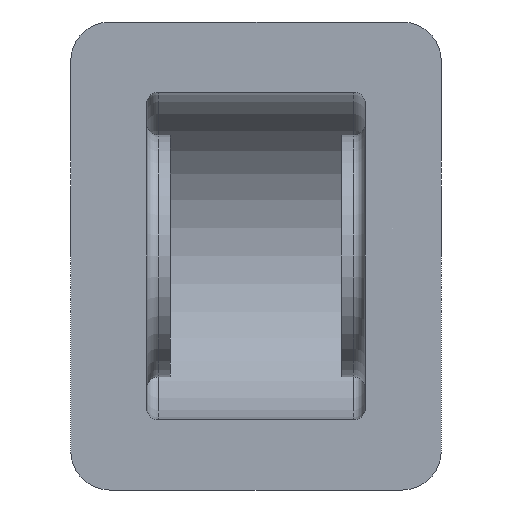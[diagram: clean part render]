
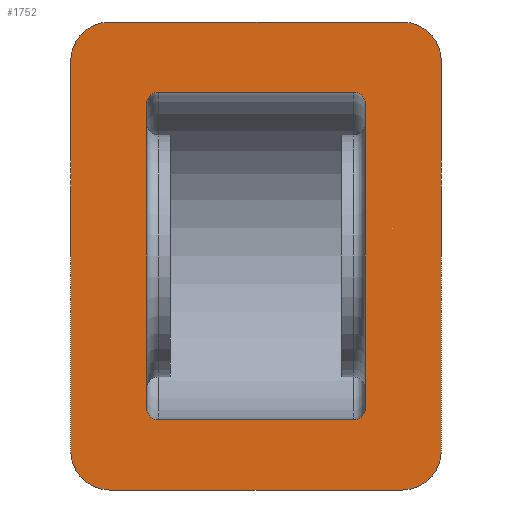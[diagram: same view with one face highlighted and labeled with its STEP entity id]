
A CAD part, front view. The second image highlights one B-rep face of the part: STEP entity #1752.
In plain terms, the highlighted planar face has unit normal (0, -1, 0).
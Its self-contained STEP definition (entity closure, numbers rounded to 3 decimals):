
#7 = DIRECTION ( 'NONE',  ( 0., 0., -1. ) ) ;
#51 = VECTOR ( 'NONE', #1571, 1000. ) ;
#114 = VERTEX_POINT ( 'NONE', #330 ) ;
#120 = AXIS2_PLACEMENT_3D ( 'NONE', #2023, #2977, #359 ) ;
#149 = DIRECTION ( 'NONE',  ( 0., 0., -1. ) ) ;
#156 = VERTEX_POINT ( 'NONE', #2325 ) ;
#163 = EDGE_LOOP ( 'NONE', ( #2847, #706, #2092, #866, #2446, #2260, #2133, #2058 ) ) ;
#168 = CIRCLE ( 'NONE', #2918, 3. ) ;
#175 = CARTESIAN_POINT ( 'NONE',  ( -25., -50., 39. ) ) ;
#228 = CARTESIAN_POINT ( 'NONE',  ( -37.5, -50., -60. ) ) ;
#273 = VECTOR ( 'NONE', #1666, 1000. ) ;
#275 = EDGE_CURVE ( 'NONE', #2138, #483, #2518, .T. ) ;
#277 = VECTOR ( 'NONE', #1497, 1000. ) ;
#302 = VERTEX_POINT ( 'NONE', #1222 ) ;
#330 = CARTESIAN_POINT ( 'NONE',  ( 25., -50., 42. ) ) ;
#347 = CIRCLE ( 'NONE', #2310, 10. ) ;
#355 = VECTOR ( 'NONE', #2193, 1000. ) ;
#356 = CARTESIAN_POINT ( 'NONE',  ( -47.5, -50., -50. ) ) ;
#359 = DIRECTION ( 'NONE',  ( 0., 0., 1. ) ) ;
#407 = ORIENTED_EDGE ( 'NONE', *, *, #2873, .F. ) ;
#430 = CARTESIAN_POINT ( 'NONE',  ( -37.5, -50., 60. ) ) ;
#440 = DIRECTION ( 'NONE',  ( 0., 0., -1. ) ) ;
#468 = VECTOR ( 'NONE', #2341, 1000. ) ;
#483 = VERTEX_POINT ( 'NONE', #1942 ) ;
#554 = ORIENTED_EDGE ( 'NONE', *, *, #3062, .T. ) ;
#579 = CARTESIAN_POINT ( 'NONE',  ( 37., -50., 51. ) ) ;
#641 = EDGE_CURVE ( 'NONE', #2173, #3000, #168, .T. ) ;
#677 = DIRECTION ( 'NONE',  ( -1., 0., 0. ) ) ;
#692 = LINE ( 'NONE', #2941, #355 ) ;
#697 = ORIENTED_EDGE ( 'NONE', *, *, #1024, .F. ) ;
#706 = ORIENTED_EDGE ( 'NONE', *, *, #2181, .T. ) ;
#717 = DIRECTION ( 'NONE',  ( 0., -1., 0. ) ) ;
#718 = ORIENTED_EDGE ( 'NONE', *, *, #275, .F. ) ;
#729 = CIRCLE ( 'NONE', #2839, 10. ) ;
#760 = CARTESIAN_POINT ( 'NONE',  ( 25., -50., 39. ) ) ;
#795 = LINE ( 'NONE', #430, #1675 ) ;
#818 = CARTESIAN_POINT ( 'NONE',  ( -28., -50., 39. ) ) ;
#826 = AXIS2_PLACEMENT_3D ( 'NONE', #2492, #1292, #1523 ) ;
#866 = ORIENTED_EDGE ( 'NONE', *, *, #2805, .T. ) ;
#876 = LINE ( 'NONE', #2545, #1444 ) ;
#880 = VERTEX_POINT ( 'NONE', #1019 ) ;
#902 = CARTESIAN_POINT ( 'NONE',  ( 37.5, -50., -60. ) ) ;
#949 = CARTESIAN_POINT ( 'NONE',  ( -25., -50., -42. ) ) ;
#956 = ORIENTED_EDGE ( 'NONE', *, *, #2678, .F. ) ;
#962 = DIRECTION ( 'NONE',  ( 0., -1., 0. ) ) ;
#966 = AXIS2_PLACEMENT_3D ( 'NONE', #579, #2721, #2493 ) ;
#991 = VERTEX_POINT ( 'NONE', #356 ) ;
#1019 = CARTESIAN_POINT ( 'NONE',  ( -28., -50., -39. ) ) ;
#1024 = EDGE_CURVE ( 'NONE', #880, #1389, #2218, .T. ) ;
#1054 = EDGE_CURVE ( 'NONE', #3078, #991, #1484, .T. ) ;
#1056 = VECTOR ( 'NONE', #149, 1000. ) ;
#1092 = LINE ( 'NONE', #1725, #277 ) ;
#1118 = VERTEX_POINT ( 'NONE', #1867 ) ;
#1130 = DIRECTION ( 'NONE',  ( 0., -1., 0. ) ) ;
#1158 = CARTESIAN_POINT ( 'NONE',  ( 37., -50., 42. ) ) ;
#1181 = EDGE_CURVE ( 'NONE', #3000, #880, #876, .T. ) ;
#1184 = AXIS2_PLACEMENT_3D ( 'NONE', #760, #1434, #1678 ) ;
#1185 = CARTESIAN_POINT ( 'NONE',  ( 25., -50., -42. ) ) ;
#1210 = EDGE_CURVE ( 'NONE', #991, #156, #2983, .T. ) ;
#1222 = CARTESIAN_POINT ( 'NONE',  ( 28., -50., 39. ) ) ;
#1292 = DIRECTION ( 'NONE',  ( 0., -1., 0. ) ) ;
#1317 = CARTESIAN_POINT ( 'NONE',  ( -47.5, -50., 50. ) ) ;
#1365 = EDGE_CURVE ( 'NONE', #1833, #1118, #795, .T. ) ;
#1389 = VERTEX_POINT ( 'NONE', #949 ) ;
#1394 = EDGE_CURVE ( 'NONE', #1921, #2982, #729, .T. ) ;
#1429 = DIRECTION ( 'NONE',  ( 0., 0., 1. ) ) ;
#1434 = DIRECTION ( 'NONE',  ( 0., -1., 0. ) ) ;
#1437 = LINE ( 'NONE', #1158, #51 ) ;
#1444 = VECTOR ( 'NONE', #7, 1000. ) ;
#1484 = LINE ( 'NONE', #2235, #1056 ) ;
#1497 = DIRECTION ( 'NONE',  ( -1., 0., 0. ) ) ;
#1523 = DIRECTION ( 'NONE',  ( 0., 0., 1. ) ) ;
#1554 = CARTESIAN_POINT ( 'NONE',  ( 47.5, -50., 50. ) ) ;
#1570 = FACE_BOUND ( 'NONE', #2882, .T. ) ;
#1571 = DIRECTION ( 'NONE',  ( -1., 0., 0. ) ) ;
#1666 = DIRECTION ( 'NONE',  ( 0., 0., 1. ) ) ;
#1673 = CARTESIAN_POINT ( 'NONE',  ( 25., -50., -39. ) ) ;
#1675 = VECTOR ( 'NONE', #677, 1000. ) ;
#1678 = DIRECTION ( 'NONE',  ( 0., 0., 1. ) ) ;
#1725 = CARTESIAN_POINT ( 'NONE',  ( 37., -50., -42. ) ) ;
#1752 = ADVANCED_FACE ( 'NONE', ( #1570, #1984 ), #2929, .F. ) ;
#1753 = LINE ( 'NONE', #228, #468 ) ;
#1775 = ORIENTED_EDGE ( 'NONE', *, *, #2068, .T. ) ;
#1818 = DIRECTION ( 'NONE',  ( 0., -1., 0. ) ) ;
#1833 = VERTEX_POINT ( 'NONE', #2504 ) ;
#1836 = VERTEX_POINT ( 'NONE', #1554 ) ;
#1838 = CARTESIAN_POINT ( 'NONE',  ( -37.5, -50., 50. ) ) ;
#1867 = CARTESIAN_POINT ( 'NONE',  ( -37.5, -50., 60. ) ) ;
#1884 = DIRECTION ( 'NONE',  ( 0., -1., 0. ) ) ;
#1890 = AXIS2_PLACEMENT_3D ( 'NONE', #2838, #962, #2597 ) ;
#1893 = CARTESIAN_POINT ( 'NONE',  ( 47.5, -50., 50. ) ) ;
#1921 = VERTEX_POINT ( 'NONE', #902 ) ;
#1942 = CARTESIAN_POINT ( 'NONE',  ( 28., -50., -39. ) ) ;
#1984 = FACE_OUTER_BOUND ( 'NONE', #163, .T. ) ;
#2023 = CARTESIAN_POINT ( 'NONE',  ( 37.5, -50., 50. ) ) ;
#2058 = ORIENTED_EDGE ( 'NONE', *, *, #1054, .T. ) ;
#2068 = EDGE_CURVE ( 'NONE', #302, #483, #692, .T. ) ;
#2092 = ORIENTED_EDGE ( 'NONE', *, *, #1394, .T. ) ;
#2113 = CARTESIAN_POINT ( 'NONE',  ( -25., -50., 42. ) ) ;
#2133 = ORIENTED_EDGE ( 'NONE', *, *, #2699, .T. ) ;
#2138 = VERTEX_POINT ( 'NONE', #1185 ) ;
#2173 = VERTEX_POINT ( 'NONE', #2113 ) ;
#2181 = EDGE_CURVE ( 'NONE', #156, #1921, #1753, .T. ) ;
#2193 = DIRECTION ( 'NONE',  ( 0., 0., -1. ) ) ;
#2218 = CIRCLE ( 'NONE', #826, 3. ) ;
#2235 = CARTESIAN_POINT ( 'NONE',  ( -47.5, -50., 50. ) ) ;
#2260 = ORIENTED_EDGE ( 'NONE', *, *, #1365, .T. ) ;
#2265 = DIRECTION ( 'NONE',  ( 0., 0., 1. ) ) ;
#2310 = AXIS2_PLACEMENT_3D ( 'NONE', #1838, #1130, #440 ) ;
#2325 = CARTESIAN_POINT ( 'NONE',  ( -37.5, -50., -60. ) ) ;
#2341 = DIRECTION ( 'NONE',  ( 1., 0., 0. ) ) ;
#2435 = CIRCLE ( 'NONE', #1184, 3. ) ;
#2446 = ORIENTED_EDGE ( 'NONE', *, *, #2566, .T. ) ;
#2492 = CARTESIAN_POINT ( 'NONE',  ( -25., -50., -39. ) ) ;
#2493 = DIRECTION ( 'NONE',  ( 0., 0., 1. ) ) ;
#2504 = CARTESIAN_POINT ( 'NONE',  ( 37.5, -50., 60. ) ) ;
#2518 = CIRCLE ( 'NONE', #2796, 3. ) ;
#2545 = CARTESIAN_POINT ( 'NONE',  ( -28., -50., 51. ) ) ;
#2566 = EDGE_CURVE ( 'NONE', #1836, #1833, #2623, .T. ) ;
#2597 = DIRECTION ( 'NONE',  ( 0., 0., -1. ) ) ;
#2623 = CIRCLE ( 'NONE', #120, 10. ) ;
#2649 = ORIENTED_EDGE ( 'NONE', *, *, #1181, .F. ) ;
#2675 = CARTESIAN_POINT ( 'NONE',  ( 47.5, -50., -50. ) ) ;
#2678 = EDGE_CURVE ( 'NONE', #114, #2173, #1437, .T. ) ;
#2699 = EDGE_CURVE ( 'NONE', #1118, #3078, #347, .T. ) ;
#2721 = DIRECTION ( 'NONE',  ( 0., 1., 0. ) ) ;
#2796 = AXIS2_PLACEMENT_3D ( 'NONE', #1673, #717, #1429 ) ;
#2805 = EDGE_CURVE ( 'NONE', #2982, #1836, #2854, .T. ) ;
#2827 = ORIENTED_EDGE ( 'NONE', *, *, #641, .F. ) ;
#2833 = DIRECTION ( 'NONE',  ( 0., 0., -1. ) ) ;
#2838 = CARTESIAN_POINT ( 'NONE',  ( -37.5, -50., -50. ) ) ;
#2839 = AXIS2_PLACEMENT_3D ( 'NONE', #2846, #1884, #2833 ) ;
#2846 = CARTESIAN_POINT ( 'NONE',  ( 37.5, -50., -50. ) ) ;
#2847 = ORIENTED_EDGE ( 'NONE', *, *, #1210, .T. ) ;
#2854 = LINE ( 'NONE', #1893, #273 ) ;
#2873 = EDGE_CURVE ( 'NONE', #302, #114, #2435, .T. ) ;
#2882 = EDGE_LOOP ( 'NONE', ( #2649, #2827, #956, #407, #1775, #718, #554, #697 ) ) ;
#2918 = AXIS2_PLACEMENT_3D ( 'NONE', #175, #1818, #2265 ) ;
#2929 = PLANE ( 'NONE',  #966 ) ;
#2941 = CARTESIAN_POINT ( 'NONE',  ( 28., -50., 51. ) ) ;
#2977 = DIRECTION ( 'NONE',  ( 0., -1., 0. ) ) ;
#2982 = VERTEX_POINT ( 'NONE', #2675 ) ;
#2983 = CIRCLE ( 'NONE', #1890, 10. ) ;
#3000 = VERTEX_POINT ( 'NONE', #818 ) ;
#3062 = EDGE_CURVE ( 'NONE', #2138, #1389, #1092, .T. ) ;
#3078 = VERTEX_POINT ( 'NONE', #1317 ) ;
